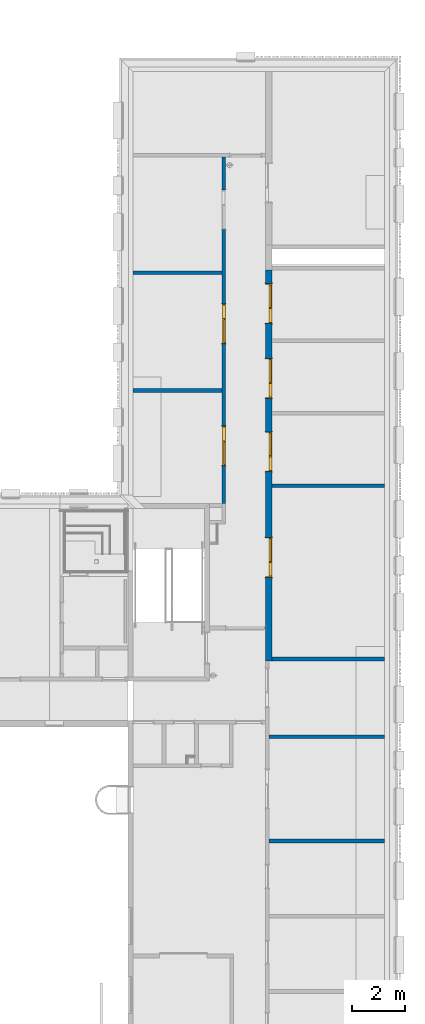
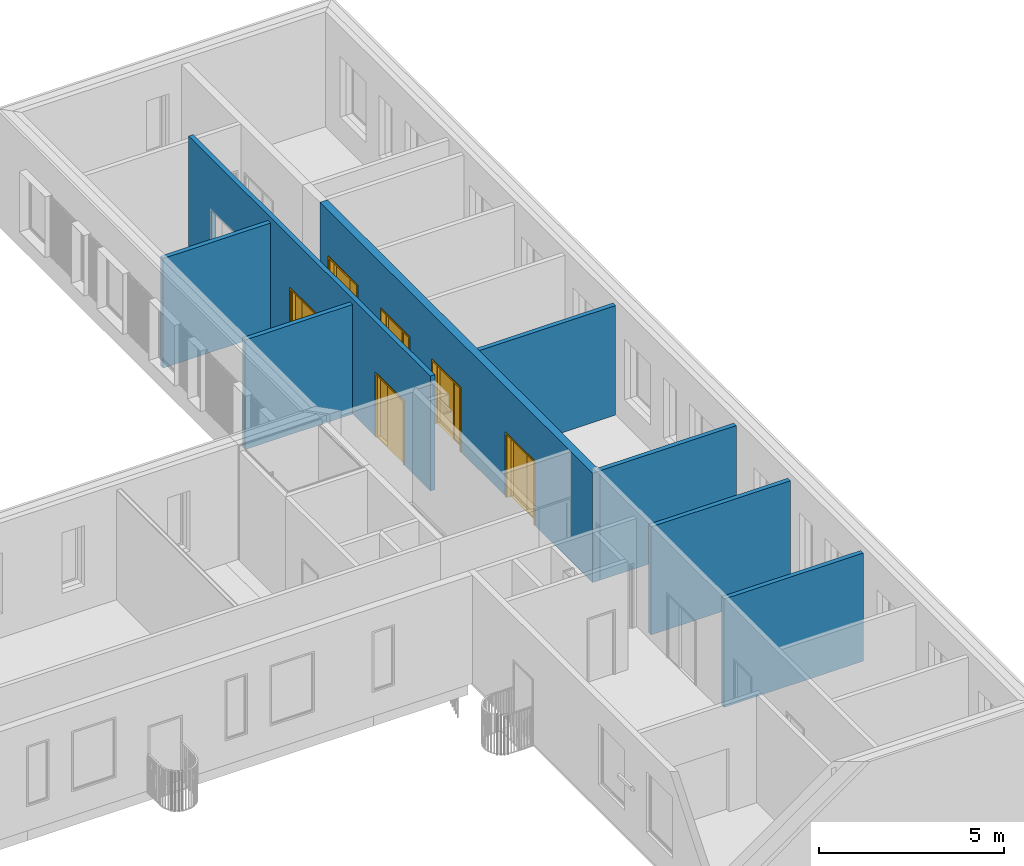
# One storey, part 12 of 100: 8 walls, 6 doors, 7 openings.
"""IFC2X3 building model written with IfcOpenShell, lengths in millimetres."""

from ifc_helpers import new_model, entity, si_unit, converted_unit, derived_unit, money_unit, direction, frame, origin_with_axes, origin_2d_with_axis, place, context, subcontext, project, spatial, polyline, rectangle, outline, extrude, open_shell, faceted_brep, surface_model, source, transform, mapped, material, layer, layer_set, layer_usage, type_object, element, fill, save


model = new_model("IFC2X3")

# Units and contexts
model_context = context("Model", 3, precision=0.01, world=origin_with_axes(), true_north=direction((0.0, 1.0)))
body_context = subcontext(model_context, "Body", "Model", "MODEL_VIEW")
ifc_project = project(units=[si_unit("LENGTHUNIT", "METRE", prefix="MILLI"), si_unit("AREAUNIT", "SQUARE_METRE"), si_unit("VOLUMEUNIT", "CUBIC_METRE"), converted_unit("PLANEANGLEUNIT", "DEGREE", entity("IfcPlaneAngleMeasure", 0.0174532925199), si_unit("PLANEANGLEUNIT", "RADIAN"), dimensions=[0, 0, 0, 0, 0, 0, 0]), si_unit("SOLIDANGLEUNIT", "STERADIAN"), money_unit("EUR"), converted_unit("TIMEUNIT", "Year", entity("IfcTimeMeasure", 31556926.0), si_unit("TIMEUNIT", "SECOND"), dimensions=[0, 0, 1, 0, 0, 0, 0]), si_unit("MASSUNIT", "GRAM", prefix="KILO"), si_unit("THERMODYNAMICTEMPERATUREUNIT", "DEGREE_CELSIUS"), si_unit("LUMINOUSINTENSITYUNIT", "LUMEN"), si_unit("ENERGYUNIT", "JOULE", prefix="MEGA"), derived_unit("THERMALCONDUCTANCEUNIT", [(si_unit("POWERUNIT", "WATT"), 1), (si_unit("LENGTHUNIT", "METRE"), -1), (si_unit("THERMODYNAMICTEMPERATUREUNIT", "KELVIN"), -1)]), derived_unit("SPECIFICHEATCAPACITYUNIT", [(si_unit("ENERGYUNIT", "JOULE"), 1), (si_unit("MASSUNIT", "GRAM", prefix="KILO"), -1), (si_unit("THERMODYNAMICTEMPERATUREUNIT", "KELVIN"), -1)]), derived_unit("MASSDENSITYUNIT", [(si_unit("MASSUNIT", "GRAM", prefix="KILO"), 1), (si_unit("VOLUMEUNIT", "CUBIC_METRE"), -1)])], contexts=[model_context])

# Site, building, storey
site_placement = place(None, origin_with_axes())
site = spatial("IfcSite", under=ifc_project, at=site_placement, Name="Politse- ja Piirivalveameti ning Päästeameti ühishoone", CompositionType="ELEMENT")
building_placement = place(site_placement, origin_with_axes())
building = spatial("IfcBuilding", under=site, at=building_placement, Name="Politse- ja Piirivalveameti ning Päästeameti ühishoone", CompositionType="ELEMENT")
storey_placement = place(building_placement, frame((0.0, 0.0, 3800.0), z_axis=(0.0, 0.0, 1.0), x_axis=(1.0, 0.0, 0.0)))
storey = spatial("IfcBuildingStorey", under=building, at=storey_placement, Name="Teine korrus", CompositionType="ELEMENT", Elevation=3800.0)

# Wall, openings, doors
ifc_material = material(Name="KON-05_Betoon Plokk - Konstuktsioon")
ifc_layer_1 = layer(ifc_material, 240.0, ventilated="UNKNOWN")
ifc_layer_set_1 = layer_set([ifc_layer_1], Name="SS-04_Sisesein 240")
ifc_layer_usage_1 = layer_usage(ifc_layer_set_1, "AXIS2", "POSITIVE", 0.0)
wall_type_1 = type_object("IfcWallType", Name="SS-04_Sisesein 240 240", PredefinedType="NOTDEFINED")
wall_1_placement = place(storey_placement, frame((65160.5595507, 30009.809139, 0.0), z_axis=(0.0, 0.0, 1.0), x_axis=(0.0, -1.0, 0.0)))
wall_1 = element("IfcWallStandardCase", 1, at=wall_1_placement, inside=storey, type_object=wall_type_1, material=ifc_layer_usage_1, Name="SS-04", context=body_context, shape_type="SweptSolid", body=[
    extrude(outline(polyline([(0.0, 0.0), (14759.7669862, 0.0), (14759.7669862, 240.0), (0.0, 240.0), (0.0, 0.0)])), origin_with_axes(), (0.0, 0.0, 1.0), 3620.0),
])
opening_1_placement = place(wall_1_placement, frame((6863.21911658, 0.0, 0.0), z_axis=(0.0, 0.0, 1.0), x_axis=(1.0, 0.0, 0.0)))
opening_1 = element("IfcOpeningElement", 2, at=opening_1_placement, cuts=wall_1, Name="SU-02-5", context=body_context, shape_type="SweptSolid", body=[
    extrude(rectangle(XDim=1500.0, YDim=2100.0, at=origin_2d_with_axis()), frame((0.0, -240.0, 1050.0), z_axis=(0.0, -1.0, 0.0), x_axis=(-1.0, 0.0, 0.0)), (0.0, 0.0, -1.0), 720.0),
    extrude(rectangle(XDim=1574.0, YDim=2137.0, at=origin_2d_with_axis()), frame((0.0, 0.0, 1068.5), z_axis=(0.0, -1.0, 0.0), x_axis=(-1.0, 0.0, 0.0)), (0.0, 0.0, 1.0), 240.0),
    extrude(rectangle(XDim=1574.0, YDim=2137.0, at=origin_2d_with_axis()), frame((0.0, 240.0, 1068.5), z_axis=(0.0, 1.0, 0.0), x_axis=(-1.0, 0.0, 0.0)), (0.0, 0.0, 1.0), 240.0),
])
opening_2_placement = place(wall_1_placement, frame((4093.86443508, 0.0, 0.0), z_axis=(0.0, 0.0, 1.0), x_axis=(1.0, 0.0, 0.0)))
opening_2 = element("IfcOpeningElement", 3, at=opening_2_placement, cuts=wall_1, Name="SU-02-5", context=body_context, shape_type="SweptSolid", body=[
    extrude(rectangle(XDim=1500.0, YDim=2100.0, at=origin_2d_with_axis()), frame((0.0, -240.0, 1050.0), z_axis=(0.0, -1.0, 0.0), x_axis=(-1.0, 0.0, 0.0)), (0.0, 0.0, -1.0), 720.0),
    extrude(rectangle(XDim=1574.0, YDim=2137.0, at=origin_2d_with_axis()), frame((0.0, 0.0, 1068.5), z_axis=(0.0, -1.0, 0.0), x_axis=(-1.0, 0.0, 0.0)), (0.0, 0.0, 1.0), 240.0),
    extrude(rectangle(XDim=1574.0, YDim=2137.0, at=origin_2d_with_axis()), frame((0.0, 240.0, 1068.5), z_axis=(0.0, 1.0, 0.0), x_axis=(-1.0, 0.0, 0.0)), (0.0, 0.0, 1.0), 240.0),
])
opening_3_placement = place(wall_1_placement, frame((1269.17429662, 0.0, 0.0), z_axis=(0.0, 0.0, 1.0), x_axis=(1.0, 0.0, 0.0)))
opening_3 = element("IfcOpeningElement", 4, at=opening_3_placement, cuts=wall_1, Name="SU-02-5", context=body_context, shape_type="SweptSolid", body=[
    extrude(rectangle(XDim=1500.0, YDim=2100.0, at=origin_2d_with_axis()), frame((0.0, -240.0, 1050.0), z_axis=(0.0, -1.0, 0.0), x_axis=(-1.0, 0.0, 0.0)), (0.0, 0.0, -1.0), 720.0),
    extrude(rectangle(XDim=1574.0, YDim=2137.0, at=origin_2d_with_axis()), frame((0.0, 0.0, 1068.5), z_axis=(0.0, -1.0, 0.0), x_axis=(-1.0, 0.0, 0.0)), (0.0, 0.0, 1.0), 240.0),
    extrude(rectangle(XDim=1574.0, YDim=2137.0, at=origin_2d_with_axis()), frame((0.0, 240.0, 1068.5), z_axis=(0.0, 1.0, 0.0), x_axis=(-1.0, 0.0, 0.0)), (0.0, 0.0, 1.0), 240.0),
])
opening_4_placement = place(wall_1_placement, frame((10853.1643031, 0.0, 0.0), z_axis=(0.0, 0.0, 1.0), x_axis=(1.0, 0.0, 0.0)))
opening_4 = element("IfcOpeningElement", 5, at=opening_4_placement, cuts=wall_1, Name="SU-02-5", context=body_context, shape_type="SweptSolid", body=[
    extrude(rectangle(XDim=1500.0, YDim=2100.0, at=origin_2d_with_axis()), frame((0.0, -240.0, 1050.0), z_axis=(0.0, -1.0, 0.0), x_axis=(-1.0, 0.0, 0.0)), (0.0, 0.0, -1.0), 720.0),
    extrude(rectangle(XDim=1574.0, YDim=2137.0, at=origin_2d_with_axis()), frame((0.0, 0.0, 1068.5), z_axis=(0.0, -1.0, 0.0), x_axis=(-1.0, 0.0, 0.0)), (0.0, 0.0, 1.0), 240.0),
    extrude(rectangle(XDim=1574.0, YDim=2137.0, at=origin_2d_with_axis()), frame((0.0, 240.0, 1068.5), z_axis=(0.0, 1.0, 0.0), x_axis=(-1.0, 0.0, 0.0)), (0.0, 0.0, 1.0), 240.0),
])
door_style = type_object("IfcDoorStyle", Name="Door with Sidelight on Side 2 23", ConstructionType="NOTDEFINED", OperationType="NOTDEFINED", ParameterTakesPrecedence=False, Sizeable=False)
shared_shape_1 = source(origin_with_axes(), body_context, "Body", "SurfaceModel", [
    faceted_brep([(-722.0, -40.0, 0.0), (-710.0, -40.0, 0.0), (-710.0, -40.0, 12.0), (-722.0, -40.0, 12.0), (162.0, -40.0, 0.0), (150.0, -40.0, 0.0), (150.0, -115.0, 0.0), (-710.0, -115.0, 0.0), (-710.0, -115.0, 12.0), (150.0, -115.0, 12.0), (150.0, -40.0, 12.0), (162.0, -40.0, 12.0)], [[[0, 1, 2, 3]], [[0, 4, 5, 6, 7, 1]], [[1, 7, 8, 2]], [[3, 2, 8, 9, 10, 11]], [[4, 0, 3, 11]], [[5, 4, 11, 10]], [[6, 5, 10, 9]], [[7, 6, 9, 8]]]),
    faceted_brep([(750.0, -115.0, 0.0), (750.0, -240.0, 0.0), (725.0, -240.0, 0.0), (725.0, -115.0, 0.0), (750.0, -115.0, 2100.0), (750.0, -240.0, 2100.0), (725.0, -240.0, 2075.0), (725.0, -115.0, 2075.0)], [[[0, 1, 2, 3]], [[4, 5, 1, 0]], [[1, 5, 6, 2]], [[3, 2, 6, 7]], [[0, 3, 7, 4]], [[7, 6, 5, 4]]]),
    faceted_brep([(-750.0, -115.0, 2100.0), (-750.0, -240.0, 2100.0), (-725.0, -240.0, 2075.0), (-725.0, -115.0, 2075.0), (-750.0, -115.0, 0.0), (-750.0, -240.0, 0.0), (-725.0, -240.0, 0.0), (-725.0, -115.0, 0.0)], [[[0, 1, 2, 3]], [[4, 5, 1, 0]], [[1, 5, 6, 2]], [[3, 2, 6, 7]], [[0, 3, 7, 4]], [[7, 6, 5, 4]]]),
    faceted_brep([(725.0, -115.0, 2075.0), (725.0, -240.0, 2075.0), (-725.0, -240.0, 2075.0), (-725.0, -115.0, 2075.0), (750.0, -115.0, 2100.0), (750.0, -240.0, 2100.0), (-750.0, -240.0, 2100.0), (-750.0, -115.0, 2100.0)], [[[0, 1, 2, 3]], [[4, 5, 1, 0]], [[1, 5, 6, 2]], [[3, 2, 6, 7]], [[0, 3, 7, 4]], [[7, 6, 5, 4]]]),
    faceted_brep([(787.0, -259.0, 0.0), (737.0, -259.0, 0.0), (737.0, -240.0, 0.0), (787.0, -240.0, 0.0), (787.0, -259.0, 2137.0), (737.0, -259.0, 2087.0), (737.0, -240.0, 2087.0), (787.0, -240.0, 2137.0)], [[[0, 1, 2, 3]], [[0, 4, 5, 1]], [[1, 5, 6, 2]], [[3, 2, 6, 7]], [[4, 0, 3, 7]], [[5, 4, 7, 6]]]),
    faceted_brep([(-787.0, -259.0, 2137.0), (-737.0, -259.0, 2087.0), (-737.0, -240.0, 2087.0), (-787.0, -240.0, 2137.0), (-787.0, -259.0, 0.0), (-737.0, -259.0, 0.0), (-737.0, -240.0, 0.0), (-787.0, -240.0, 0.0)], [[[0, 1, 2, 3]], [[0, 4, 5, 1]], [[1, 5, 6, 2]], [[3, 2, 6, 7]], [[4, 0, 3, 7]], [[5, 4, 7, 6]]]),
    faceted_brep([(787.0, -259.0, 2137.0), (737.0, -259.0, 2087.0), (737.0, -240.0, 2087.0), (787.0, -240.0, 2137.0), (-787.0, -259.0, 2137.0), (-737.0, -259.0, 2087.0), (-737.0, -240.0, 2087.0), (-787.0, -240.0, 2137.0)], [[[0, 1, 2, 3]], [[0, 4, 5, 1]], [[1, 5, 6, 2]], [[3, 2, 6, 7]], [[4, 0, 3, 7]], [[5, 4, 7, 6]]]),
    faceted_brep([(787.0, 19.0, 0.0), (787.0, 0.0, 0.0), (737.0, 0.0, 0.0), (737.0, 19.0, 0.0), (787.0, 19.0, 2137.0), (787.0, 0.0, 2137.0), (737.0, 0.0, 2087.0), (737.0, 19.0, 2087.0)], [[[0, 1, 2, 3]], [[4, 5, 1, 0]], [[1, 5, 6, 2]], [[3, 2, 6, 7]], [[0, 3, 7, 4]], [[7, 6, 5, 4]]]),
    faceted_brep([(-787.0, 19.0, 2137.0), (-787.0, 0.0, 2137.0), (-737.0, 0.0, 2087.0), (-737.0, 19.0, 2087.0), (-787.0, 19.0, 0.0), (-787.0, 0.0, 0.0), (-737.0, 0.0, 0.0), (-737.0, 19.0, 0.0)], [[[0, 1, 2, 3]], [[4, 5, 1, 0]], [[1, 5, 6, 2]], [[3, 2, 6, 7]], [[0, 3, 7, 4]], [[7, 6, 5, 4]]]),
    faceted_brep([(787.0, 19.0, 2137.0), (787.0, 0.0, 2137.0), (737.0, 0.0, 2087.0), (737.0, 19.0, 2087.0), (-787.0, 19.0, 2137.0), (-787.0, 0.0, 2137.0), (-737.0, 0.0, 2087.0), (-737.0, 19.0, 2087.0)], [[[0, 1, 2, 3]], [[4, 5, 1, 0]], [[1, 5, 6, 2]], [[3, 2, 6, 7]], [[0, 3, 7, 4]], [[7, 6, 5, 4]]]),
    faceted_brep([(750.0, 0.0, 0.0), (750.0, -115.0, 0.0), (710.0, -115.0, 0.0), (710.0, 0.0, 0.0), (750.0, 0.0, 2060.0), (750.0, -115.0, 2060.0), (710.0, -115.0, 2060.0), (710.0, -115.0, 40.0), (710.0, 0.0, 40.0), (710.0, 0.0, 2060.0)], [[[0, 1, 2, 3]], [[4, 5, 1, 0]], [[1, 5, 6, 7, 2]], [[3, 2, 7, 8]], [[0, 3, 8, 9, 4]], [[9, 6, 5, 4]], [[8, 7, 6, 9]]]),
    faceted_brep([(150.0, -40.0, 0.0), (150.0, -115.0, 0.0), (150.0, -115.0, 2060.0), (150.0, -40.0, 2060.0), (162.0, -40.0, 0.0), (162.0, 0.0, 0.0), (190.0, 0.0, 0.0), (190.0, -115.0, 0.0), (190.0, -115.0, 40.0), (190.0, -115.0, 2060.0), (162.0, -40.0, 2060.0), (190.0, 0.0, 2060.0), (162.0, 0.0, 2060.0), (190.0, 0.0, 40.0)], [[[0, 1, 2, 3]], [[4, 5, 6, 7, 1, 0]], [[7, 8, 9, 2, 1]], [[10, 3, 2, 9, 11, 12]], [[10, 4, 0, 3]], [[12, 5, 4, 10]], [[12, 11, 13, 6, 5]], [[6, 13, 8, 7]], [[13, 11, 9, 8]]]),
    faceted_brep([(710.0, 0.0, 40.0), (710.0, -115.0, 40.0), (710.0, -115.0, 0.0), (710.0, 0.0, 0.0), (190.0, 0.0, 40.0), (190.0, -115.0, 40.0), (190.0, -115.0, 0.0), (190.0, 0.0, 0.0)], [[[0, 1, 2, 3]], [[4, 5, 1, 0]], [[1, 5, 6, 2]], [[3, 2, 6, 7]], [[0, 3, 7, 4]], [[7, 6, 5, 4]]]),
    faceted_brep([(-722.0, -40.0, 2060.0), (-722.0, 0.0, 2060.0), (-750.0, 0.0, 2060.0), (-750.0, -115.0, 2060.0), (-710.0, -115.0, 2060.0), (-710.0, -40.0, 2060.0), (-722.0, -40.0, 0.0), (-722.0, 0.0, 0.0), (-750.0, 0.0, 0.0), (-750.0, -115.0, 0.0), (-710.0, -115.0, 0.0), (-710.0, -40.0, 0.0)], [[[0, 1, 2, 3, 4, 5]], [[0, 6, 7, 1]], [[7, 8, 2, 1]], [[2, 8, 9, 3]], [[3, 9, 10, 4]], [[5, 4, 10, 11]], [[5, 11, 6, 0]], [[6, 11, 10, 9, 8, 7]]]),
    faceted_brep([(162.0, 0.0, 2072.0), (-722.0, 0.0, 2072.0), (-722.0, 0.0, 2060.0), (-750.0, 0.0, 2060.0), (-750.0, 0.0, 2100.0), (750.0, 0.0, 2100.0), (750.0, 0.0, 2060.0), (710.0, 0.0, 2060.0), (190.0, 0.0, 2060.0), (162.0, 0.0, 2060.0), (162.0, -40.0, 2072.0), (-722.0, -40.0, 2072.0), (-722.0, -40.0, 2060.0), (-710.0, -40.0, 2060.0), (-710.0, -115.0, 2060.0), (-750.0, -115.0, 2060.0), (-750.0, -115.0, 2100.0), (750.0, -115.0, 2100.0), (750.0, -115.0, 2060.0), (710.0, -115.0, 2060.0), (190.0, -115.0, 2060.0), (162.0, -40.0, 2060.0), (150.0, -115.0, 2060.0)], [[[0, 1, 2, 3, 4, 5, 6, 7, 8, 9]], [[0, 10, 11, 1]], [[1, 11, 12, 2]], [[12, 13, 14, 15, 3, 2]], [[4, 3, 15, 16]], [[5, 4, 16, 17]], [[6, 5, 17, 18]], [[7, 6, 18, 19]], [[8, 7, 19, 20]], [[21, 9, 8, 20, 22, 14, 13]], [[9, 21, 10, 0]], [[12, 11, 10, 21, 13]], [[14, 22, 20, 19, 18, 17, 16, 15]]]),
    faceted_brep([(-722.0, 0.0, 0.0), (162.0, 0.0, 0.0), (162.0, -40.0, 0.0), (-722.0, -40.0, 0.0), (-722.0, 0.0, 2072.0), (162.0, 0.0, 2072.0), (162.0, -40.0, 2072.0), (-722.0, -40.0, 2072.0)], [[[0, 1, 2, 3]], [[0, 4, 5, 1]], [[1, 5, 6, 2]], [[3, 2, 6, 7]], [[4, 0, 3, 7]], [[5, 4, 7, 6]]]),
    surface_model("IfcShellBasedSurfaceModel", [(710.0, -91.0, 40.0), (190.0, -91.0, 40.0), (190.0, -91.0, 2060.0), (710.0, -91.0, 2060.0)], [open_shell([[[0, 1, 2, 3]]])]),
    surface_model("IfcShellBasedSurfaceModel", [(710.0, -103.0, 40.0), (710.0, -103.0, 2060.0), (190.0, -103.0, 2060.0), (190.0, -103.0, 40.0)], [open_shell([[[0, 1, 2, 3]]])]),
])
door_1_placement = place(opening_1_placement, frame((-750.0, 0.0, 0.0), z_axis=(0.0, 0.0, 1.0), x_axis=(1.0, 0.0, 0.0)))
door_1 = element("IfcDoor", 6, at=door_1_placement, inside=storey, type_object=door_style, Name="SU-02-5", ObjectType="DOOR", OverallHeight=2100.0, OverallWidth=1500.0, context=body_context, shape_type="MappedRepresentation", body=[
    mapped(shared_shape_1, transform((750.0, 240.0, 0.0))),
])
fill(opening_1, door_1)
door_2_placement = place(opening_2_placement, frame((-750.0, 0.0, 0.0), z_axis=(0.0, 0.0, 1.0), x_axis=(1.0, 0.0, 0.0)))
door_2 = element("IfcDoor", 7, at=door_2_placement, inside=storey, type_object=door_style, Name="SU-02-5", ObjectType="DOOR", OverallHeight=2100.0, OverallWidth=1500.0, context=body_context, shape_type="MappedRepresentation", body=[
    mapped(shared_shape_1, transform((750.0, 240.0, 0.0))),
])
fill(opening_2, door_2)
door_3_placement = place(opening_3_placement, frame((-750.0, 0.0, 0.0), z_axis=(0.0, 0.0, 1.0), x_axis=(1.0, 0.0, 0.0)))
door_3 = element("IfcDoor", 8, at=door_3_placement, inside=storey, type_object=door_style, Name="SU-02-5", ObjectType="DOOR", OverallHeight=2100.0, OverallWidth=1500.0, context=body_context, shape_type="MappedRepresentation", body=[
    mapped(shared_shape_1, transform((750.0, 240.0, 0.0))),
])
fill(opening_3, door_3)
door_4_placement = place(opening_4_placement, frame((-750.0, 0.0, 0.0), z_axis=(0.0, 0.0, 1.0), x_axis=(1.0, 0.0, 0.0)))
door_4 = element("IfcDoor", 9, at=door_4_placement, inside=storey, type_object=door_style, Name="SU-02-5", ObjectType="DOOR", OverallHeight=2100.0, OverallWidth=1500.0, context=body_context, shape_type="MappedRepresentation", body=[
    mapped(shared_shape_1, transform((750.0, 240.0, 0.0))),
])
fill(opening_4, door_4)

# Walls
ifc_layer_2 = layer(ifc_material, 140.0, ventilated="UNKNOWN")
ifc_layer_set_2 = layer_set([ifc_layer_2], Name="SS-02_Sisesein 140")
ifc_layer_usage_2 = layer_usage(ifc_layer_set_2, "AXIS2", "POSITIVE", 0.0)
wall_type_2 = type_object("IfcWallType", Name="SS-02_Sisesein 140 140", PredefinedType="NOTDEFINED")
wall_2_placement = place(storey_placement, frame((69660.5664257, 8520.0, 0.0), z_axis=(0.0, 0.0, 1.0), x_axis=(-1.0, 0.0, 0.0)))
element("IfcWallStandardCase", 10, at=wall_2_placement, inside=storey, type_object=wall_type_2, material=ifc_layer_usage_2, Name="SS-02", context=body_context, shape_type="SweptSolid", body=[
    extrude(outline(polyline([(0.0, 0.0), (4360.006875, 0.0), (4360.006875, 140.0), (0.0, 140.0), (0.0, 0.0)])), origin_with_axes(), (0.0, 0.0, 1.0), 3575.0),
])
ifc_layer_usage_3 = layer_usage(ifc_layer_set_2, "AXIS2", "POSITIVE", 0.0)
wall_3_placement = place(storey_placement, frame((60160.5519118, 29830.0907704, 0.0), z_axis=(0.0, 0.0, 1.0), x_axis=(1.0, 0.0, 0.0)))
element("IfcWallStandardCase", 11, at=wall_3_placement, inside=storey, type_object=wall_type_2, material=ifc_layer_usage_3, Name="SS-02", context=body_context, shape_type="SweptSolid", body=[
    extrude(outline(polyline([(0.0, 0.0), (3360.00534722, 0.0), (3360.00534722, 140.0), (0.0, 140.0), (0.0, 0.0)])), origin_with_axes(), (0.0, 0.0, 1.0), 3620.0),
])
ifc_layer_usage_4 = layer_usage(ifc_layer_set_2, "AXIS2", "POSITIVE", 0.0)
wall_4_placement = place(storey_placement, frame((60160.5519118, 25389.9987061, 0.0), z_axis=(0.0, 0.0, 1.0), x_axis=(1.0, 0.0, 0.0)))
element("IfcWallStandardCase", 12, at=wall_4_placement, inside=storey, type_object=wall_type_2, material=ifc_layer_usage_4, Name="SS-02", context=body_context, shape_type="SweptSolid", body=[
    extrude(outline(polyline([(0.0, 0.0), (3360.00534722, 0.0), (3360.00534722, 140.0), (0.0, 140.0), (0.0, 0.0)])), origin_with_axes(), (0.0, 0.0, 1.0), 3620.0),
])
ifc_layer_usage_5 = layer_usage(ifc_layer_set_2, "AXIS2", "POSITIVE", 0.0)
wall_5_placement = place(storey_placement, frame((65160.5595507, 21789.809139, 0.0), z_axis=(0.0, 0.0, 1.0), x_axis=(1.0, 0.0, 0.0)))
element("IfcWallStandardCase", 13, at=wall_5_placement, inside=storey, type_object=wall_type_2, material=ifc_layer_usage_5, Name="SS-02", context=body_context, shape_type="SweptSolid", body=[
    extrude(outline(polyline([(240.0, 0.0), (4500.006875, 0.0), (4500.006875, 140.0), (240.0, 140.0), (240.0, 0.0)])), origin_with_axes(), (0.0, 0.0, 1.0), 3620.0),
])
ifc_layer_usage_6 = layer_usage(ifc_layer_set_2, "AXIS2", "POSITIVE", 0.0)
wall_6_placement = place(storey_placement, frame((65160.5595507, 12320.0198611, 0.0), z_axis=(0.0, 0.0, 1.0), x_axis=(1.0, 0.0, 0.0)))
element("IfcWallStandardCase", 14, at=wall_6_placement, inside=storey, type_object=wall_type_2, material=ifc_layer_usage_6, Name="SS-02", context=body_context, shape_type="SweptSolid", body=[
    extrude(outline(polyline([(140.0, 0.0), (4500.006875, 0.0), (4500.006875, 140.0), (140.0, 140.0), (140.0, 0.0)])), origin_with_axes(), (0.0, 0.0, 1.0), 3575.0),
])
ifc_layer_usage_7 = layer_usage(ifc_layer_set_2, "AXIS2", "NEGATIVE", 0.0)
wall_7_placement = place(storey_placement, frame((65400.5595507, 15390.0421528, 0.0), z_axis=(0.0, 0.0, 1.0), x_axis=(1.0, 0.0, 0.0)))
element("IfcWallStandardCase", 15, at=wall_7_placement, inside=storey, type_object=wall_type_2, material=ifc_layer_usage_7, Name="SS-02", context=body_context, shape_type="SweptSolid", body=[
    extrude(outline(polyline([(0.0, -140.0), (4260.006875, -140.0), (4260.006875, 0.0), (5.0, 0.0), (0.0, -140.0)])), origin_with_axes(), (0.0, 0.0, 1.0), 3620.0),
])

# Wall, openings, doors
ifc_layer_usage_8 = layer_usage(ifc_layer_set_2, "AXIS2", "POSITIVE", 0.0)
wall_8_placement = place(storey_placement, frame((63660.557259, 21189.9520832, 0.0), z_axis=(0.0, 0.0, 1.0), x_axis=(0.0, 1.0, 0.0)))
wall_8 = element("IfcWallStandardCase", 16, at=wall_8_placement, inside=storey, type_object=wall_type_2, material=ifc_layer_usage_8, Name="SS-02", context=body_context, shape_type="SweptSolid", body=[
    extrude(outline(polyline([(0.0, 0.0), (13080.0233895, 0.0), (13080.0233895, 140.0), (0.0, 140.0), (0.0, 0.0)])), origin_with_axes(), (0.0, 0.0, 1.0), 3800.0),
])
opening_5_placement = place(wall_8_placement, frame((6792.70747396, 0.0, 0.0), z_axis=(0.0, 0.0, 1.0), x_axis=(1.0, 0.0, 0.0)))
opening_5 = element("IfcOpeningElement", 17, at=opening_5_placement, cuts=wall_8, Name="SU-02-5", context=body_context, shape_type="SweptSolid", body=[
    extrude(rectangle(XDim=1500.0, YDim=2100.0, at=origin_2d_with_axis()), frame((0.0, 140.0, 1050.0), z_axis=(0.0, 1.0, 0.0), x_axis=(-1.0, 0.0, 0.0)), (0.0, 0.0, -1.0), 420.0),
    extrude(rectangle(XDim=1574.0, YDim=2137.0, at=origin_2d_with_axis()), frame((0.0, 140.0, 1068.5), z_axis=(0.0, 1.0, 0.0), x_axis=(-1.0, 0.0, 0.0)), (0.0, 0.0, 1.0), 140.0),
    extrude(rectangle(XDim=1574.0, YDim=2137.0, at=origin_2d_with_axis()), frame((0.0, 0.0, 1068.5), z_axis=(0.0, -1.0, 0.0), x_axis=(-1.0, 0.0, 0.0)), (0.0, 0.0, 1.0), 140.0),
])
opening_6_placement = place(wall_8_placement, frame((11095.7320107, 0.0, 0.0), z_axis=(0.0, 0.0, 1.0), x_axis=(1.0, 0.0, 0.0)))
element("IfcOpeningElement", 18, at=opening_6_placement, cuts=wall_8, Name="SU-02-5", context=body_context, shape_type="SweptSolid", body=[
    extrude(rectangle(XDim=1500.0, YDim=2100.0, at=origin_2d_with_axis()), frame((0.0, -140.0, 1050.0), z_axis=(0.0, -1.0, 0.0), x_axis=(-1.0, 0.0, 0.0)), (0.0, 0.0, -1.0), 420.0),
    extrude(rectangle(XDim=1574.0, YDim=2137.0, at=origin_2d_with_axis()), frame((0.0, 0.0, 1068.5), z_axis=(0.0, -1.0, 0.0), x_axis=(-1.0, 0.0, 0.0)), (0.0, 0.0, 1.0), 140.0),
    extrude(rectangle(XDim=1574.0, YDim=2137.0, at=origin_2d_with_axis()), frame((0.0, 140.0, 1068.5), z_axis=(0.0, 1.0, 0.0), x_axis=(-1.0, 0.0, 0.0)), (0.0, 0.0, 1.0), 140.0),
])
opening_7_placement = place(wall_8_placement, frame((2179.63155757, 0.0, 0.0), z_axis=(0.0, 0.0, 1.0), x_axis=(1.0, 0.0, 0.0)))
opening_7 = element("IfcOpeningElement", 19, at=opening_7_placement, cuts=wall_8, Name="SU-02-5", context=body_context, shape_type="SweptSolid", body=[
    extrude(rectangle(XDim=1500.0, YDim=2100.0, at=origin_2d_with_axis()), frame((0.0, 140.0, 1050.0), z_axis=(0.0, 1.0, 0.0), x_axis=(-1.0, 0.0, 0.0)), (0.0, 0.0, -1.0), 420.0),
    extrude(rectangle(XDim=1574.0, YDim=2137.0, at=origin_2d_with_axis()), frame((0.0, 140.0, 1068.5), z_axis=(0.0, 1.0, 0.0), x_axis=(-1.0, 0.0, 0.0)), (0.0, 0.0, 1.0), 140.0),
    extrude(rectangle(XDim=1574.0, YDim=2137.0, at=origin_2d_with_axis()), frame((0.0, 0.0, 1068.5), z_axis=(0.0, -1.0, 0.0), x_axis=(-1.0, 0.0, 0.0)), (0.0, 0.0, 1.0), 140.0),
])
shared_shape_2 = source(origin_with_axes(), body_context, "Body", "SurfaceModel", [
    faceted_brep([(-710.0, -115.0, 0.0), (-710.0, -115.0, 12.0), (-710.0, -40.0, 12.0), (-710.0, -40.0, 0.0), (150.0, -115.0, 0.0), (150.0, -115.0, 12.0), (150.0, -40.0, 12.0), (162.0, -40.0, 12.0), (-722.0, -40.0, 12.0), (-722.0, -40.0, 0.0), (162.0, -40.0, 0.0), (150.0, -40.0, 0.0)], [[[0, 1, 2, 3]], [[4, 5, 1, 0]], [[1, 5, 6, 7, 8, 2]], [[3, 2, 8, 9]], [[0, 3, 9, 10, 11, 4]], [[11, 6, 5, 4]], [[10, 7, 6, 11]], [[9, 8, 7, 10]]]),
    faceted_brep([(750.0, 0.0, 0.0), (725.0, 0.0, 0.0), (725.0, 25.0, 0.0), (750.0, 25.0, 0.0), (750.0, 0.0, 2100.0), (725.0, 0.0, 2075.0), (725.0, 25.0, 2075.0), (750.0, 25.0, 2100.0)], [[[0, 1, 2, 3]], [[0, 4, 5, 1]], [[1, 5, 6, 2]], [[3, 2, 6, 7]], [[4, 0, 3, 7]], [[5, 4, 7, 6]]]),
    faceted_brep([(-750.0, 0.0, 2100.0), (-725.0, 0.0, 2075.0), (-725.0, 25.0, 2075.0), (-750.0, 25.0, 2100.0), (-750.0, 0.0, 0.0), (-725.0, 0.0, 0.0), (-725.0, 25.0, 0.0), (-750.0, 25.0, 0.0)], [[[0, 1, 2, 3]], [[0, 4, 5, 1]], [[1, 5, 6, 2]], [[3, 2, 6, 7]], [[4, 0, 3, 7]], [[5, 4, 7, 6]]]),
    faceted_brep([(725.0, 0.0, 2075.0), (-725.0, 0.0, 2075.0), (-725.0, 25.0, 2075.0), (725.0, 25.0, 2075.0), (750.0, 0.0, 2100.0), (-750.0, 0.0, 2100.0), (-750.0, 25.0, 2100.0), (750.0, 25.0, 2100.0)], [[[0, 1, 2, 3]], [[0, 4, 5, 1]], [[1, 5, 6, 2]], [[3, 2, 6, 7]], [[4, 0, 3, 7]], [[5, 4, 7, 6]]]),
    faceted_brep([(787.0, 44.0, 0.0), (787.0, 25.0, 0.0), (737.0, 25.0, 0.0), (737.0, 44.0, 0.0), (787.0, 44.0, 2137.0), (787.0, 25.0, 2137.0), (737.0, 25.0, 2087.0), (737.0, 44.0, 2087.0)], [[[0, 1, 2, 3]], [[4, 5, 1, 0]], [[1, 5, 6, 2]], [[3, 2, 6, 7]], [[0, 3, 7, 4]], [[7, 6, 5, 4]]]),
    faceted_brep([(-787.0, 44.0, 2137.0), (-787.0, 25.0, 2137.0), (-737.0, 25.0, 2087.0), (-737.0, 44.0, 2087.0), (-787.0, 44.0, 0.0), (-787.0, 25.0, 0.0), (-737.0, 25.0, 0.0), (-737.0, 44.0, 0.0)], [[[0, 1, 2, 3]], [[4, 5, 1, 0]], [[1, 5, 6, 2]], [[3, 2, 6, 7]], [[0, 3, 7, 4]], [[7, 6, 5, 4]]]),
    faceted_brep([(787.0, 44.0, 2137.0), (787.0, 25.0, 2137.0), (737.0, 25.0, 2087.0), (737.0, 44.0, 2087.0), (-787.0, 44.0, 2137.0), (-787.0, 25.0, 2137.0), (-737.0, 25.0, 2087.0), (-737.0, 44.0, 2087.0)], [[[0, 1, 2, 3]], [[4, 5, 1, 0]], [[1, 5, 6, 2]], [[3, 2, 6, 7]], [[0, 3, 7, 4]], [[7, 6, 5, 4]]]),
    faceted_brep([(787.0, -134.0, 0.0), (737.0, -134.0, 0.0), (737.0, -115.0, 0.0), (787.0, -115.0, 0.0), (787.0, -134.0, 2137.0), (737.0, -134.0, 2087.0), (737.0, -115.0, 2087.0), (787.0, -115.0, 2137.0)], [[[0, 1, 2, 3]], [[0, 4, 5, 1]], [[1, 5, 6, 2]], [[3, 2, 6, 7]], [[4, 0, 3, 7]], [[5, 4, 7, 6]]]),
    faceted_brep([(-787.0, -134.0, 2137.0), (-737.0, -134.0, 2087.0), (-737.0, -115.0, 2087.0), (-787.0, -115.0, 2137.0), (-787.0, -134.0, 0.0), (-737.0, -134.0, 0.0), (-737.0, -115.0, 0.0), (-787.0, -115.0, 0.0)], [[[0, 1, 2, 3]], [[0, 4, 5, 1]], [[1, 5, 6, 2]], [[3, 2, 6, 7]], [[4, 0, 3, 7]], [[5, 4, 7, 6]]]),
    faceted_brep([(787.0, -134.0, 2137.0), (737.0, -134.0, 2087.0), (737.0, -115.0, 2087.0), (787.0, -115.0, 2137.0), (-787.0, -134.0, 2137.0), (-737.0, -134.0, 2087.0), (-737.0, -115.0, 2087.0), (-787.0, -115.0, 2137.0)], [[[0, 1, 2, 3]], [[0, 4, 5, 1]], [[1, 5, 6, 2]], [[3, 2, 6, 7]], [[4, 0, 3, 7]], [[5, 4, 7, 6]]]),
    faceted_brep([(750.0, 0.0, 0.0), (750.0, -115.0, 0.0), (710.0, -115.0, 0.0), (710.0, 0.0, 0.0), (750.0, 0.0, 2060.0), (750.0, -115.0, 2060.0), (710.0, -115.0, 2060.0), (710.0, -115.0, 40.0), (710.0, 0.0, 40.0), (710.0, 0.0, 2060.0)], [[[0, 1, 2, 3]], [[4, 5, 1, 0]], [[1, 5, 6, 7, 2]], [[3, 2, 7, 8]], [[0, 3, 8, 9, 4]], [[9, 6, 5, 4]], [[8, 7, 6, 9]]]),
    faceted_brep([(150.0, -40.0, 0.0), (150.0, -115.0, 0.0), (150.0, -115.0, 2060.0), (150.0, -40.0, 2060.0), (162.0, -40.0, 0.0), (162.0, 0.0, 0.0), (190.0, 0.0, 0.0), (190.0, -115.0, 0.0), (190.0, -115.0, 40.0), (190.0, -115.0, 2060.0), (162.0, -40.0, 2060.0), (190.0, 0.0, 2060.0), (162.0, 0.0, 2060.0), (190.0, 0.0, 40.0)], [[[0, 1, 2, 3]], [[4, 5, 6, 7, 1, 0]], [[7, 8, 9, 2, 1]], [[10, 3, 2, 9, 11, 12]], [[10, 4, 0, 3]], [[12, 5, 4, 10]], [[12, 11, 13, 6, 5]], [[6, 13, 8, 7]], [[13, 11, 9, 8]]]),
    faceted_brep([(710.0, 0.0, 40.0), (710.0, -115.0, 40.0), (710.0, -115.0, 0.0), (710.0, 0.0, 0.0), (190.0, 0.0, 40.0), (190.0, -115.0, 40.0), (190.0, -115.0, 0.0), (190.0, 0.0, 0.0)], [[[0, 1, 2, 3]], [[4, 5, 1, 0]], [[1, 5, 6, 2]], [[3, 2, 6, 7]], [[0, 3, 7, 4]], [[7, 6, 5, 4]]]),
    faceted_brep([(-722.0, -40.0, 2060.0), (-722.0, 0.0, 2060.0), (-750.0, 0.0, 2060.0), (-750.0, -115.0, 2060.0), (-710.0, -115.0, 2060.0), (-710.0, -40.0, 2060.0), (-722.0, -40.0, 0.0), (-722.0, 0.0, 0.0), (-750.0, 0.0, 0.0), (-750.0, -115.0, 0.0), (-710.0, -115.0, 0.0), (-710.0, -40.0, 0.0)], [[[0, 1, 2, 3, 4, 5]], [[0, 6, 7, 1]], [[7, 8, 2, 1]], [[2, 8, 9, 3]], [[3, 9, 10, 4]], [[5, 4, 10, 11]], [[5, 11, 6, 0]], [[6, 11, 10, 9, 8, 7]]]),
    faceted_brep([(162.0, 0.0, 2072.0), (-722.0, 0.0, 2072.0), (-722.0, 0.0, 2060.0), (-750.0, 0.0, 2060.0), (-750.0, 0.0, 2100.0), (750.0, 0.0, 2100.0), (750.0, 0.0, 2060.0), (710.0, 0.0, 2060.0), (190.0, 0.0, 2060.0), (162.0, 0.0, 2060.0), (162.0, -40.0, 2072.0), (-722.0, -40.0, 2072.0), (-722.0, -40.0, 2060.0), (-710.0, -40.0, 2060.0), (-710.0, -115.0, 2060.0), (-750.0, -115.0, 2060.0), (-750.0, -115.0, 2100.0), (750.0, -115.0, 2100.0), (750.0, -115.0, 2060.0), (710.0, -115.0, 2060.0), (190.0, -115.0, 2060.0), (162.0, -40.0, 2060.0), (150.0, -115.0, 2060.0)], [[[0, 1, 2, 3, 4, 5, 6, 7, 8, 9]], [[0, 10, 11, 1]], [[1, 11, 12, 2]], [[12, 13, 14, 15, 3, 2]], [[4, 3, 15, 16]], [[5, 4, 16, 17]], [[6, 5, 17, 18]], [[7, 6, 18, 19]], [[8, 7, 19, 20]], [[21, 9, 8, 20, 22, 14, 13]], [[9, 21, 10, 0]], [[12, 11, 10, 21, 13]], [[14, 22, 20, 19, 18, 17, 16, 15]]]),
    faceted_brep([(-722.0, 0.0, 0.0), (162.0, 0.0, 0.0), (162.0, -40.0, 0.0), (-722.0, -40.0, 0.0), (-722.0, 0.0, 2072.0), (162.0, 0.0, 2072.0), (162.0, -40.0, 2072.0), (-722.0, -40.0, 2072.0)], [[[0, 1, 2, 3]], [[0, 4, 5, 1]], [[1, 5, 6, 2]], [[3, 2, 6, 7]], [[4, 0, 3, 7]], [[5, 4, 7, 6]]]),
    surface_model("IfcShellBasedSurfaceModel", [(710.0, -91.0, 40.0), (190.0, -91.0, 40.0), (190.0, -91.0, 2060.0), (710.0, -91.0, 2060.0)], [open_shell([[[0, 1, 2, 3]]])]),
    surface_model("IfcShellBasedSurfaceModel", [(710.0, -103.0, 40.0), (710.0, -103.0, 2060.0), (190.0, -103.0, 2060.0), (190.0, -103.0, 40.0)], [open_shell([[[0, 1, 2, 3]]])]),
])
door_5_placement = place(opening_5_placement, frame((-750.0, 0.0, 0.0), z_axis=(0.0, 0.0, 1.0), x_axis=(1.0, 0.0, 0.0)))
door_5 = element("IfcDoor", 20, at=door_5_placement, inside=storey, type_object=door_style, Name="SU-02-5", ObjectType="DOOR", OverallHeight=2100.0, OverallWidth=1500.0, context=body_context, shape_type="MappedRepresentation", body=[
    mapped(shared_shape_2, transform((750.0, 115.0, 0.0))),
])
fill(opening_5, door_5)
door_6_placement = place(opening_7_placement, frame((-750.0, 0.0, 0.0), z_axis=(0.0, 0.0, 1.0), x_axis=(1.0, 0.0, 0.0)))
door_6 = element("IfcDoor", 21, at=door_6_placement, inside=storey, type_object=door_style, Name="SU-02-5", ObjectType="DOOR", OverallHeight=2100.0, OverallWidth=1500.0, context=body_context, shape_type="MappedRepresentation", body=[
    mapped(shared_shape_2, transform((750.0, 115.0, 0.0))),
])
fill(opening_7, door_6)

save(model, "model.ifc")
